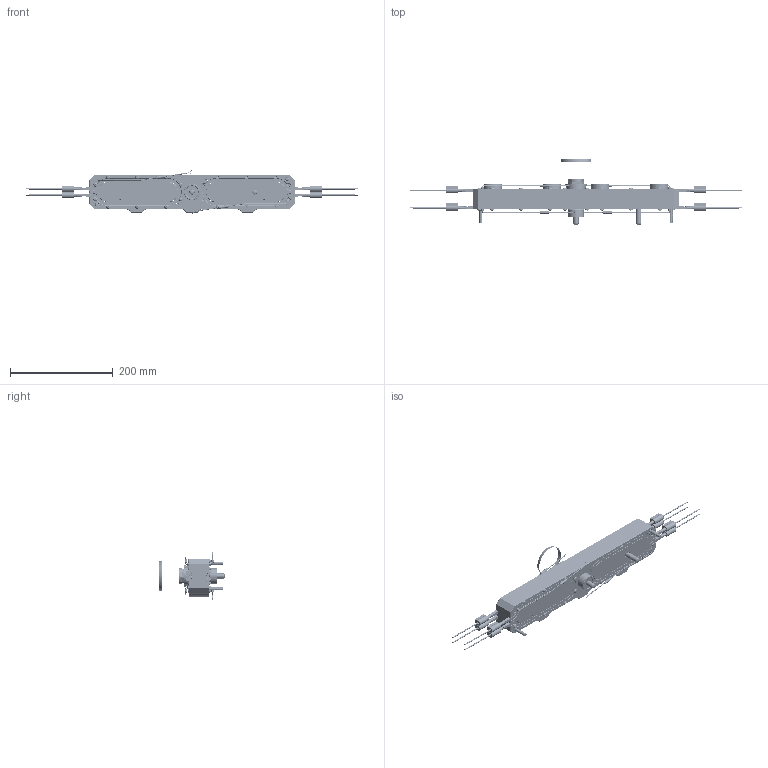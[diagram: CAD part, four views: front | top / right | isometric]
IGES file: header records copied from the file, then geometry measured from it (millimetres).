
Start section: SolidWorks IGES file using analytic representation for surfaces
Global section: file name: F:\CARTELLA CONDIVISA - 3D\01 - Piastre - 3D\Piastre Standard - Resistenza Sezione Quadrata 6x6\CCLDL2Q-S-T[4P]\Parte Multicorpo + Positivo Sede\CCLDL2DQ-04T\CCLDL2DQ-04T LT=400 B=15.IGS; native system: SolidWorks 2013; preprocessor: SolidWorks 2013; author: ws-20; date: 140128.143829; units: millimetre
Bounding box: 646 x 127.87 x 93.83 mm (x, y, z)
Surface area: 197650.8 mm2 (no closed solid volume)
Topology: 0 solids, 0 shells, 3450 faces, 37863 edges, 45530 vertices
Faces by surface type: bspline 1791, revolution 1659
